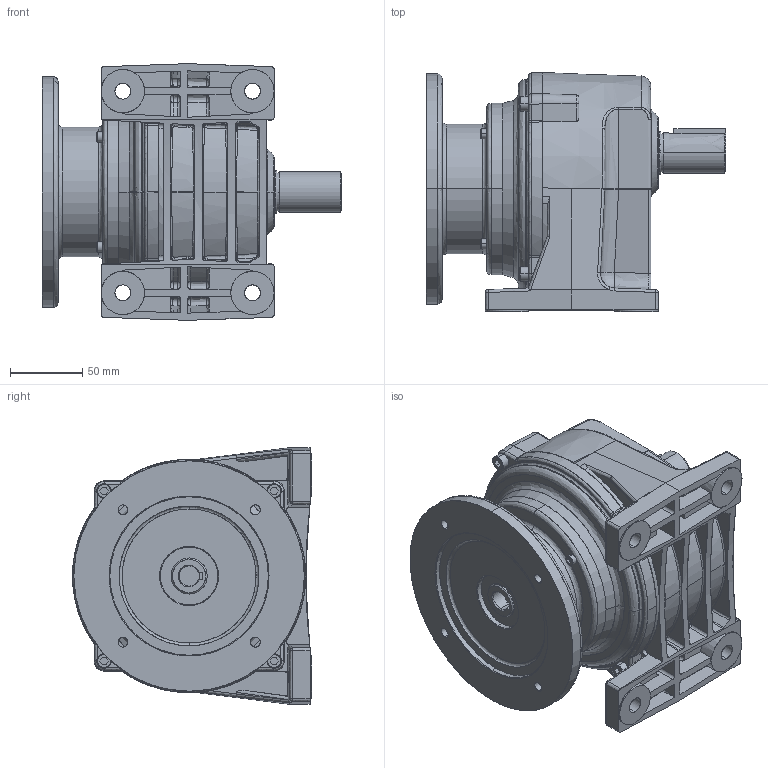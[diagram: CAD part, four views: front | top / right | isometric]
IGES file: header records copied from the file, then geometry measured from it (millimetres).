
Start section: SolidWorks IGES file using analytic representation for surfaces
Bounding box: 208 x 166 x 178.19 mm (x, y, z)
Surface area: 260951.1 mm2 (no closed solid volume)
Topology: 0 solids, 0 shells, 747 faces, 9444 edges, 9430 vertices
Faces by surface type: bspline 452, revolution 295
